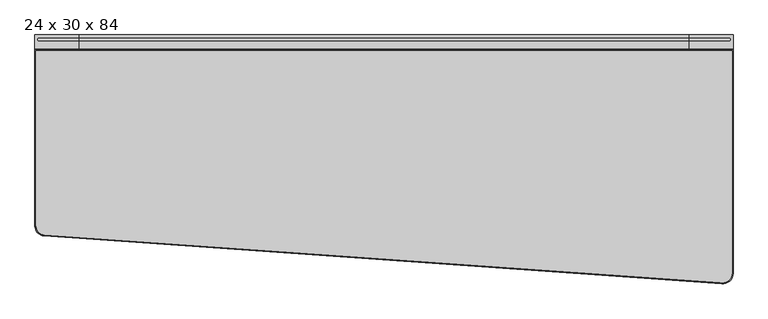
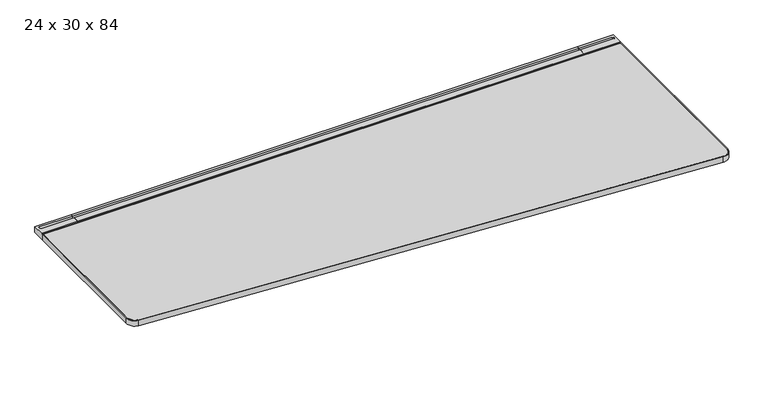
"""IFC4 building model written with IfcOpenShell, lengths in millimetres: furniture geometry, Steelcase - C Scape - Desking - Right Hand Tapered : 24 x 30 x 84."""

from ifc_helpers import new_model, si_unit, point, frame, frame_2d, origin, place, context, project, spatial, polyline, circle_curve, trimmed, segment, composite_curve, outline, extrude, faceted_brep, source, transform, mapped, element, save
from ifc_brep_helpers import plane_surface, cylinder_surface, revolved_surface, advanced_brep


def furniture_24_x_30_x_84_a90a2840(model_context):
    return source(origin(), model_context, "Body", "SolidModel", [
        advanced_brep(
        [(1998.9927124, -45.3135132, 703.3768), (1998.9927124, -45.3135132, 722.4268341), (1998.9927124, -42.7750923, 722.4268341), (1998.9927124, -42.7750923, 725.932), (1998.9927124, -19.3290527, 725.932), (1998.9927124, -19.3290527, 713.486), (1998.9927124, -8.5111084, 713.486), (1998.9927124, -8.5111084, 725.932), (1998.9927124, 0.0, 725.932), (1998.9927124, 0.0, 705.1038636), (1998.9927124, -3.2278472, 705.1038636), (1998.9927124, -4.0331902, 703.3768), (2132.0125, -45.3135132, 703.3768), (2132.0125, -4.0331902, 703.3768), (2132.0125, -3.2278472, 705.1038636), (2132.0125, 0.0, 705.1038636), (2132.0125, 0.0, 725.932), (2132.0125, -42.7750923, 725.932), (2132.0125, -42.7750923, 722.4268341), (2132.0125, -45.3135132, 722.4268341), (2120.2504272, -8.5111084, 725.932), (2120.2504272, -19.3290527, 725.932), (2120.2504272, -19.3290527, 713.486), (2120.2504272, -8.5111084, 713.486)],
        [
            (0, 1),
            (1, 2),
            (2, 3),
            (3, 4),
            (4, 5),
            (5, 6),
            (6, 7),
            (7, 8),
            (8, 9),
            (9, 10),
            (10, 11),
            (11, 0),
            (12, 13),
            (13, 14),
            (14, 15),
            (15, 16),
            (16, 17),
            (17, 18),
            (18, 19),
            (19, 12),
            (11, 13),
            (12, 0),
            (10, 14),
            (9, 15),
            (8, 16),
            (7, 20),
            (20, 21, circle_curve(frame((2120.2504272, -13.9200806, 725.932), z_axis=(0.0, 0.0, -1.0), x_axis=(-1.0, 0.0, 0.0)), 5.4089722)),
            (21, 4),
            (3, 17),
            (2, 18),
            (1, 19),
            (5, 22),
            (22, 23, circle_curve(frame((2120.2504272, -13.9200806, 713.486), z_axis=(0.0, 0.0, 1.0), x_axis=(-1.0, 0.0, 0.0)), 5.4089722)),
            (23, 6),
            (23, 20),
            (22, 21),
        ],
        [
            plane_surface(frame((1998.9927124, -45.3135132, 703.3768), z_axis=(-1.0, 0.0, 0.0), x_axis=(0.0, 1.0, 0.0))),
            plane_surface(frame((2132.0125, -45.3135132, 703.3768), z_axis=(1.0, 0.0, 0.0), x_axis=(0.0, -1.0, 0.0))),
            plane_surface(frame((1998.9927124, -45.3135132, 703.3768), z_axis=(0.0, 0.0, -1.0), x_axis=(1.0, 0.0, 0.0))),
            plane_surface(frame((1998.9927124, -4.0331902, 703.3768), z_axis=(0.0, 0.9063077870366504, -0.4226182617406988), x_axis=(1.0, 0.0, 0.0))),
            plane_surface(frame((1998.9927124, -3.2278472, 705.1038636), z_axis=(0.0, 0.0, -1.0), x_axis=(1.0, 0.0, 0.0))),
            plane_surface(frame((1998.9927124, 0.0, 705.1038636), z_axis=(0.0, 1.0, 0.0), x_axis=(1.0, 0.0, 0.0))),
            plane_surface(frame((1998.9927124, 0.0, 725.932), z_axis=(0.0, 0.0, 1.0), x_axis=(1.0, 0.0, 0.0))),
            plane_surface(frame((1998.9927124, -42.7750923, 725.932), z_axis=(0.0, -1.0, 0.0), x_axis=(1.0, 0.0, 0.0))),
            plane_surface(frame((1998.9927124, -42.7750923, 722.4268341), z_axis=(0.0, 0.0, 1.0), x_axis=(1.0, 0.0, 0.0))),
            plane_surface(frame((1998.9927124, -45.3135132, 722.4268341), z_axis=(0.0, -1.0, 0.0), x_axis=(1.0, 0.0, 0.0))),
            plane_surface(frame((2120.2504272, -8.5111084, 713.486), z_axis=(0.0, 0.0, 1.0), x_axis=(-1.0, 0.0, 0.0))),
            plane_surface(frame((1998.9927124, -8.5111084, 731.2180541), z_axis=(0.0, -1.0, 0.0), x_axis=(0.0, 0.0, -1.0))),
            revolved_surface(polyline([(2114.841455, -13.9200806, 725.932), (2114.841455, -13.9200806, 713.486)]), (2120.2504272, -13.9200806, 713.486), (0.0, 0.0, 1.0)),
            plane_surface(frame((2120.2504272, -19.3290527, 731.2180541), z_axis=(0.0, 1.0, 0.0), x_axis=(0.0, 0.0, -1.0))),
        ],
        [
            (0, [[1, 2, 3, 4, 5, 6, 7, 8, 9, 10, 11, 12]]),
            (1, [[13, 14, 15, 16, 17, 18, 19, 20]]),
            (2, [[21, -13, 22, -12]]),
            (3, [[23, -14, -21, -11]]),
            (4, [[24, -15, -23, -10]]),
            (5, [[25, -16, -24, -9]]),
            (6, [[-25, -8, 26, 27, 28, -4, 29, -17]]),
            (7, [[30, -18, -29, -3]]),
            (8, [[31, -19, -30, -2]]),
            (9, [[-22, -20, -31, -1]]),
            (10, [[-6, 32, 33, 34]]),
            (11, [[35, -26, -7, -34]]),
            (12, [[36, -27, -35, -33]]),
            (13, [[-5, -28, -36, -32]]),
        ],
    ),
        faceted_brep([(2112.9617368, -565.0752923, 700.7093833), (2112.9617368, -565.0752923, 703.3768), (1998.9927124, -565.0752923, 703.3768), (1998.9927124, -565.0752923, 679.3263935), (2014.6268699, -565.0752923, 679.3263935), (2017.2474121, -565.0752923, 693.4200291), (2098.6866272, -565.0752923, 693.4200291), (2112.9617368, -4.0331902, 700.7093833), (2098.6866272, -4.0331902, 693.4200291), (2017.2474121, -4.0331902, 693.4200291), (2005.3411653, -4.0331902, 629.3866), (1998.9927124, -4.0331902, 629.3866), (1998.9927124, -4.0331902, 703.3768), (2112.9617368, -4.0331902, 703.3768), (2012.4615949, -376.5599397, 667.6812472), (2005.3411653, -364.1172546, 629.3866), (1998.9927124, -364.1172546, 629.3866), (1998.9927124, -376.5599397, 667.6812472)], [[[0, 1, 2, 3, 4, 5, 6]], [[7, 8, 9, 10, 11, 12, 13]], [[6, 8, 7, 0]], [[5, 9, 8, 6]], [[9, 5, 4, 14, 15, 10]], [[10, 15, 16, 11]], [[11, 16, 17, 3, 2, 12]], [[1, 13, 12, 2]], [[0, 7, 13, 1]], [[14, 4, 3, 17]], [[17, 16, 15, 14]]]),
        extrude(outline(composite_curve([segment(polyline([(-293.5216187, 657.3775839), (-559.0022133, 680.1371551)]), True, "CONTINUOUS"), segment(trimmed(circle_curve(frame_2d((-558.7581271, 682.9843154)), 2.8576039), [point((-559.0022133, 680.1371551))], [point((-561.5383043, 682.3236226))], False, "CARTESIAN"), True, "CONTINUOUS"), segment(polyline([(-561.5383043, 682.3236226), (-566.0887542, 701.4717905), (-557.8334441, 701.4717905), (-557.8334441, 703.3768), (-442.6683806, 703.3768), (-442.6683806, 696.3917953), (-318.2108611, 696.3917953), (-318.2108611, 703.3768), (-293.5216187, 703.3768), (-293.5216187, 657.3775839)]), True, "CONTINUOUS")], self_intersect=False)), frame((1030.224, 0.0, 0.0), z_axis=(1.0, 0.0, 0.0), x_axis=(0.0, 1.0, 0.0)), (0.0, 0.0, 1.0), 73.152),
        advanced_brep(
        [(134.6072876, -45.3135132, 703.3768), (134.6072876, -4.0331902, 703.3768), (134.6072876, -3.2278472, 705.1038636), (134.6072876, 0.0, 705.1038636), (134.6072876, 0.0, 725.932), (134.6072876, -8.5111084, 725.932), (134.6072876, -8.5111084, 713.486), (134.6072876, -19.3290527, 713.486), (134.6072876, -19.3290527, 725.932), (134.6072876, -42.7750923, 725.932), (134.6072876, -42.7750923, 722.4268341), (134.6072876, -45.3135132, 722.4268341), (1.5875, -45.3135132, 703.3768), (1.5875, -45.3135132, 722.4268341), (1.5875, -42.7750923, 722.4268341), (1.5875, -42.7750923, 725.932), (1.5875, 0.0, 725.932), (1.5875, 0.0, 705.1038636), (1.5875, -3.2278472, 705.1038636), (1.5875, -4.0331902, 703.3768), (13.3495728, -19.3290527, 725.932), (13.3495728, -8.5111084, 725.932), (13.3495728, -8.5111084, 713.486), (13.3495728, -19.3290527, 713.486)],
        [
            (0, 1),
            (1, 2),
            (2, 3),
            (3, 4),
            (4, 5),
            (5, 6),
            (6, 7),
            (7, 8),
            (8, 9),
            (9, 10),
            (10, 11),
            (11, 0),
            (12, 13),
            (13, 14),
            (14, 15),
            (15, 16),
            (16, 17),
            (17, 18),
            (18, 19),
            (19, 12),
            (0, 12),
            (19, 1),
            (18, 2),
            (17, 3),
            (16, 4),
            (15, 9),
            (8, 20),
            (20, 21, circle_curve(frame((13.3495728, -13.9200806, 725.932), z_axis=(0.0, 0.0, -1.0), x_axis=(1.0, 0.0, 0.0)), 5.4089722)),
            (21, 5),
            (14, 10),
            (13, 11),
            (6, 22),
            (22, 23, circle_curve(frame((13.3495728, -13.9200806, 713.486), z_axis=(0.0, 0.0, 1.0), x_axis=(1.0, 0.0, 0.0)), 5.4089722)),
            (23, 7),
            (21, 22),
            (20, 23),
        ],
        [
            plane_surface(frame((134.6072876, -45.3135132, 703.3768), z_axis=(1.0, 0.0, 0.0), x_axis=(0.0, 1.0, 0.0))),
            plane_surface(frame((1.5875, -45.3135132, 703.3768), z_axis=(-1.0, 0.0, 0.0), x_axis=(0.0, -1.0, 0.0))),
            plane_surface(frame((134.6072876, -45.3135132, 703.3768), z_axis=(0.0, 0.0, -1.0), x_axis=(-1.0, 0.0, 0.0))),
            plane_surface(frame((134.6072876, -4.0331902, 703.3768), z_axis=(0.0, 0.9063077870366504, -0.4226182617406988), x_axis=(-1.0, 0.0, 0.0))),
            plane_surface(frame((134.6072876, -3.2278472, 705.1038636), z_axis=(0.0, 0.0, -1.0), x_axis=(-1.0, 0.0, 0.0))),
            plane_surface(frame((134.6072876, 0.0, 705.1038636), z_axis=(0.0, 1.0, 0.0), x_axis=(-1.0, 0.0, 0.0))),
            plane_surface(frame((134.6072876, 0.0, 725.932), z_axis=(0.0, 0.0, 1.0), x_axis=(-1.0, 0.0, 0.0))),
            plane_surface(frame((134.6072876, -42.7750923, 725.932), z_axis=(0.0, -1.0, 0.0), x_axis=(-1.0, 0.0, 0.0))),
            plane_surface(frame((134.6072876, -42.7750923, 722.4268341), z_axis=(0.0, 0.0, 1.0), x_axis=(-1.0, 0.0, 0.0))),
            plane_surface(frame((134.6072876, -45.3135132, 722.4268341), z_axis=(0.0, -1.0, 0.0), x_axis=(-1.0, 0.0, 0.0))),
            plane_surface(frame((13.3495728, -8.5111084, 713.486), z_axis=(0.0, 0.0, 1.0), x_axis=(1.0, 0.0, 0.0))),
            plane_surface(frame((134.6072876, -8.5111084, 731.2180541), z_axis=(0.0, -1.0, 0.0), x_axis=(0.0, 0.0, -1.0))),
            revolved_surface(polyline([(18.758545, -13.9200806, 725.932), (18.758545, -13.9200806, 713.486)]), (13.3495728, -13.9200806, 713.486), (0.0, 0.0, 1.0)),
            plane_surface(frame((13.3495728, -19.3290527, 731.2180541), z_axis=(0.0, 1.0, 0.0), x_axis=(0.0, 0.0, -1.0))),
        ],
        [
            (0, [[1, 2, 3, 4, 5, 6, 7, 8, 9, 10, 11, 12]]),
            (1, [[13, 14, 15, 16, 17, 18, 19, 20]]),
            (2, [[-1, 21, -20, 22]]),
            (3, [[-2, -22, -19, 23]]),
            (4, [[-3, -23, -18, 24]]),
            (5, [[-4, -24, -17, 25]]),
            (6, [[-16, 26, -9, 27, 28, 29, -5, -25]]),
            (7, [[-10, -26, -15, 30]]),
            (8, [[-11, -30, -14, 31]]),
            (9, [[-12, -31, -13, -21]]),
            (10, [[32, 33, 34, -7]]),
            (11, [[-32, -6, -29, 35]]),
            (12, [[-33, -35, -28, 36]]),
            (13, [[-34, -36, -27, -8]]),
        ],
    ),
        faceted_brep([(20.6382632, -565.0752923, 700.7093833), (34.9133728, -565.0752923, 693.4200291), (116.3525879, -565.0752923, 693.4200291), (118.9731301, -565.0752923, 679.3263935), (134.6072876, -565.0752923, 679.3263935), (134.6072876, -565.0752923, 703.3768), (20.6382632, -565.0752923, 703.3768), (20.6382632, -4.0331902, 700.7093833), (20.6382632, -4.0331902, 703.3768), (134.6072876, -4.0331902, 703.3768), (134.6072876, -4.0331902, 629.3866), (128.2588347, -4.0331902, 629.3866), (116.3525879, -4.0331902, 693.4200291), (34.9133728, -4.0331902, 693.4200291), (128.2588347, -364.1172546, 629.3866), (121.1384051, -376.5599397, 667.6812472), (134.6072876, -364.1172546, 629.3866), (134.6072876, -376.5599397, 667.6812472)], [[[0, 1, 2, 3, 4, 5, 6]], [[7, 8, 9, 10, 11, 12, 13]], [[1, 0, 7, 13]], [[2, 1, 13, 12]], [[12, 11, 14, 15, 3, 2]], [[11, 10, 16, 14]], [[10, 9, 5, 4, 17, 16]], [[6, 5, 9, 8]], [[0, 6, 8, 7]], [[15, 17, 4, 3]], [[17, 15, 14, 16]]]),
        extrude(outline(polyline([(-8.5111084, 725.932), (0.0, 725.932), (0.0, 705.1038636), (-3.2278472, 705.1038636), (-4.0331902, 703.3768), (-45.3135132, 703.3768), (-45.3135132, 722.4268341), (-42.7750923, 722.4268341), (-42.7750923, 725.932), (-19.3290527, 725.932), (-19.3290527, 713.486), (-8.5111084, 713.486), (-8.5111084, 725.932)])), frame((134.6072876, 0.0, 0.0), z_axis=(1.0, 0.0, 0.0), x_axis=(0.0, 1.0, 0.0)), (0.0, 0.0, 1.0), 1864.3854248),
        extrude(outline(polyline([(134.6072876, -293.5216187), (134.6072876, -4.0331902), (1998.9927124, -4.0331902), (1998.9927124, -293.5216187), (134.6072876, -293.5216187)])), frame((0.0, 0.0, 629.3866), z_axis=(0.0, 0.0, 1.0), x_axis=(1.0, 0.0, 0.0)), (0.0, 0.0, 1.0), 73.9902),
        extrude(outline(composite_curve([segment(polyline([(4.6355, -48.3660689), (2128.9645, -48.3660689), (2128.9645, -727.4584074)]), True, "CONTINUOUS"), segment(trimmed(circle_curve(frame_2d((2099.5399152, -727.4584074)), 29.4245848), [point((2128.9645, -727.4584074))], [point((2092.3992261, -756.0034025))], False, "CARTESIAN"), True, "CONTINUOUS"), segment(polyline([(2092.3992261, -756.0034025), (32.0559121, -610.6253514)]), True, "CONTINUOUS"), segment(trimmed(circle_curve(frame_2d((35.0928094, -580.3198247)), 30.4573094), [point((32.0559121, -610.6253514))], [point((4.6355, -580.3198247))], False, "CARTESIAN"), True, "CONTINUOUS"), segment(polyline([(4.6355, -580.3198247), (4.6355, -48.3660689)]), True, "CONTINUOUS")], self_intersect=False)), frame((0.0, 0.0, 703.3768), z_axis=(0.0, 0.0, 1.0), x_axis=(1.0, 0.0, 0.0)), (0.0, 0.0, 1.0), 20.5232),
        advanced_brep(
        [(2132.0125, -45.3150923, 703.3768), (2132.0125, -45.3150923, 723.9), (2132.0125, -727.9415979, 723.9), (2132.0125, -727.9415979, 703.3768), (2128.9615234, -48.3660689, 723.9), (2128.9615234, -48.3660689, 703.3768), (2128.9615234, -727.9415979, 703.3768), (2128.9615234, -727.9415979, 723.9), (2097.2527611, -759.548622, 703.3768), (2097.2527611, -759.548622, 723.9), (2097.5419782, -756.5113845, 723.9), (2097.5419782, -756.5113845, 703.3768), (28.8741289, -613.3822243, 723.9), (28.8741289, -613.3822243, 703.3768), (29.0891964, -610.3388374, 703.3768), (29.0891964, -610.3388374, 723.9), (1.5875, -583.3738283, 723.9), (1.5875, -45.3150923, 723.9), (4.6384766, -583.3738283, 723.9), (4.6384766, -48.3660689, 723.9), (1.5875, -583.3738283, 703.3768), (1.5875, -45.3150923, 703.3768), (4.6384766, -583.3738283, 703.3768), (4.6384766, -48.3660689, 703.3768)],
        [
            (0, 1),
            (1, 2),
            (2, 3),
            (3, 0),
            (4, 5),
            (5, 6),
            (6, 7),
            (7, 4),
            (8, 3, circle_curve(frame((2100.2625, -727.9415979, 703.3768), z_axis=(0.0, 0.0, 1.0), x_axis=(1.0, 0.0, 0.0)), 31.75)),
            (2, 9, circle_curve(frame((2100.2625, -727.9415979, 723.9), z_axis=(0.0, 0.0, -1.0), x_axis=(1.0, 0.0, 0.0)), 31.75)),
            (9, 8),
            (10, 7, circle_curve(frame((2100.2625, -727.9415979, 723.9), z_axis=(0.0, 0.0, 1.0), x_axis=(1.0, 0.0, 0.0)), 28.6990234)),
            (6, 11, circle_curve(frame((2100.2625, -727.9415979, 703.3768), z_axis=(0.0, 0.0, -1.0), x_axis=(1.0, 0.0, 0.0)), 28.6990234)),
            (11, 10),
            (9, 12),
            (12, 13),
            (13, 8),
            (11, 14),
            (14, 15),
            (15, 10),
            (16, 12, circle_curve(frame((31.7316405, -583.3738283, 723.9), z_axis=(0.0, 0.0, 1.0), x_axis=(-0.09479492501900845, -0.9954968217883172, 0.0)), 30.1441405)),
            (1, 17),
            (17, 16),
            (15, 18, circle_curve(frame((31.7316405, -583.3738283, 723.9), z_axis=(0.0, 0.0, -1.0), x_axis=(-0.09479492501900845, -0.9954968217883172, 0.0)), 27.0931639)),
            (18, 19),
            (19, 4),
            (20, 13, circle_curve(frame((31.7316405, -583.3738283, 703.3768), z_axis=(0.0, 0.0, 1.0), x_axis=(-0.09479492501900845, -0.9954968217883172, 0.0)), 30.1441405)),
            (16, 20),
            (20, 21),
            (21, 0),
            (22, 14, circle_curve(frame((31.7316405, -583.3738283, 703.3768), z_axis=(0.0, 0.0, 1.0), x_axis=(-0.09479492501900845, -0.9954968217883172, 0.0)), 27.0931639)),
            (5, 23),
            (23, 22),
            (22, 18),
            (17, 21),
            (23, 19),
        ],
        [
            plane_surface(frame((2132.0125, -45.3150923, 723.9), z_axis=(1.0, 0.0, 0.0), x_axis=(0.0, -1.0, 0.0))),
            plane_surface(frame((2128.9615234, -48.3660689, 703.3768), z_axis=(-1.0, 0.0, 0.0), x_axis=(0.0, -1.0, 0.0))),
            cylinder_surface(frame((2100.2625, -727.9415979, 0.0), z_axis=(0.0, 0.0, -1.0), x_axis=(1.0, 0.0, 0.0)), 31.75),
            revolved_surface(polyline([(2128.9615234, -727.9415979, 703.3768), (2128.9615234, -727.9415979, 723.9)]), (2100.2625, -727.9415979, 0.0), (0.0, 0.0, -1.0)),
            plane_surface(frame((2097.2527611, -759.548622, 723.9), z_axis=(-0.0704913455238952, -0.9975123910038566, 0.0), x_axis=(-0.9975123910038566, 0.0704913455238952, 0.0))),
            plane_surface(frame((2097.5420643, -756.5104811, 703.3768), z_axis=(0.07049134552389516, 0.9975123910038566, 0.0), x_axis=(-0.9975123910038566, 0.07049134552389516, 0.0))),
            plane_surface(frame((31.7316405, -583.3738283, 723.9), z_axis=(0.0, 0.0, 1.0), x_axis=(-0.09479492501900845, -0.9954968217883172, 0.0))),
            cylinder_surface(frame((31.7316405, -583.3738283, 0.0), z_axis=(0.0, 0.0, -1.0), x_axis=(-0.09479492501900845, -0.9954968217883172, 0.0)), 30.1441405),
            plane_surface(frame((31.7316405, -583.3738283, 703.3768), z_axis=(0.0, 0.0, -1.0), x_axis=(-0.09479492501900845, -0.9954968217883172, 0.0))),
            revolved_surface(polyline([(29.163346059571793, -610.34498685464, 703.3768), (29.163346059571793, -610.34498685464, 723.9)]), (31.7316405, -583.3738283, 0.0), (0.0, 0.0, -1.0)),
            plane_surface(frame((1.5875, -583.3738283, 723.9), z_axis=(-1.0, 0.0, 0.0), x_axis=(0.0, 1.0, 0.0))),
            plane_surface(frame((4.6384766, -583.3738283, 703.3768), z_axis=(1.0, 0.0, 0.0), x_axis=(0.0, 1.0, 0.0))),
            plane_surface(frame((1.5875, -45.3150923, 723.9), z_axis=(0.0, 1.0, 0.0), x_axis=(1.0, 0.0, 0.0))),
            plane_surface(frame((4.6384766, -48.3660689, 703.3768), z_axis=(0.0, -1.0, 0.0), x_axis=(1.0, 0.0, 0.0))),
        ],
        [
            (0, [[1, 2, 3, 4]]),
            (1, [[5, 6, 7, 8]]),
            (2, [[9, -3, 10, 11]]),
            (3, [[12, -7, 13, 14]]),
            (4, [[-11, 15, 16, 17]]),
            (5, [[-14, 18, 19, 20]]),
            (6, [[21, -15, -10, -2, 22, 23], [-8, -12, -20, 24, 25, 26]]),
            (7, [[27, -16, -21, 28]]),
            (8, [[-4, -9, -17, -27, 29, 30], [31, -18, -13, -6, 32, 33]]),
            (9, [[-24, -19, -31, 34]]),
            (10, [[-28, -23, 35, -29]]),
            (11, [[-34, -33, 36, -25]]),
            (12, [[-35, -22, -1, -30]]),
            (13, [[-36, -32, -5, -26]]),
        ],
    ),
    ])


if __name__ == "__main__":
    model = new_model("IFC4")
    model_context = context("Model", 3, world=origin())
    ifc_project = project(units=[si_unit("LENGTHUNIT", "METRE", prefix="MILLI")], contexts=[model_context])
    site = spatial("IfcSite", under=ifc_project)
    building = spatial("IfcBuilding", under=site)
    placement = place(None, origin())
    furniture_24_x_30_x_84_shape = furniture_24_x_30_x_84_a90a2840(model_context)
    element("IfcFurniture", 1, ObjectType="Steelcase - C Scape - Desking - Right Hand Tapered : 24 x 30 x 84", at=placement, inside=building, context=model_context, shape_type="MappedRepresentation", body=[
        mapped(furniture_24_x_30_x_84_shape, transform((0.0, 0.0, 0.0), x_axis=(1.0, 0.0, 0.0), y_axis=(0.0, 1.0, 0.0), z_axis=(0.0, 0.0, 1.0))),
    ])
    save(model, "model.ifc")
